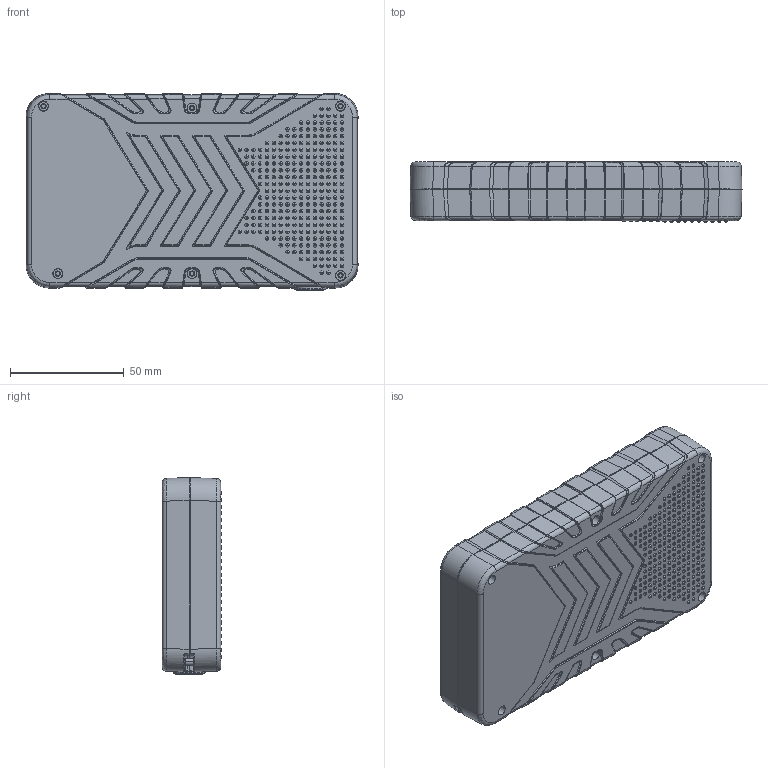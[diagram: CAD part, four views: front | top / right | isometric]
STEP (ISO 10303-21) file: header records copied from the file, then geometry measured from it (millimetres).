
FILE_DESCRIPTION (( 'STEP AP203' ), '1' );
FILE_NAME ('LitePac_6000_24.STEP', '2024-12-04T04:52:09', ( '' ), ( '' ), 'SwSTEP 2.0', 'SolidWorks 2023', '' );
FILE_SCHEMA (( 'CONFIG_CONTROL_DESIGN' ));
Length unit declared in the file: millimetre
Products named in the file (9): LitePac_6000_24; 3115101_Anschlussblende; 001.stp; 3115101_EndVersion; Akkupack_07-01-2020.stp; 002.stp; 004.stp; PRT0001.stp; 11.stp
Assembly tree (8 placements, depth 4):
  LitePac_6000_24
    3115101_EndVersion
      Akkupack_07-01-2020.stp
        001.stp
        002.stp
        004.stp
        11.stp
        PRT0001.stp
      3115101_Anschlussblende
Bounding box: 146 x 26.3 x 86.55 mm (x, y, z)
Volume: 82039.2 mm3; surface area: 93780.9 mm2
Topology: 6 solids, 6 shells, 3461 faces, 8478 edges, 5395 vertices
Faces by surface type: plane 1687, bspline 984, cylinder 587, cone 106, torus 55, sphere 42
Entity records: 138538 total; most frequent: CARTESIAN_POINT 61091, ORIENTED_EDGE 16930, DIRECTION 14316, EDGE_CURVE 8465, VERTEX_POINT 5395, AXIS2_PLACEMENT_3D 5131, LINE 4054, VECTOR 4054
